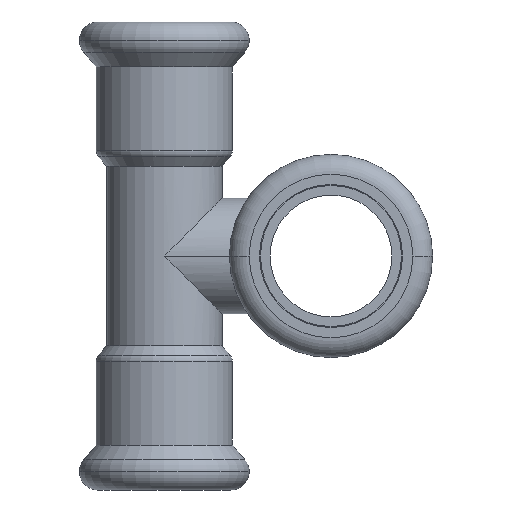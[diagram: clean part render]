
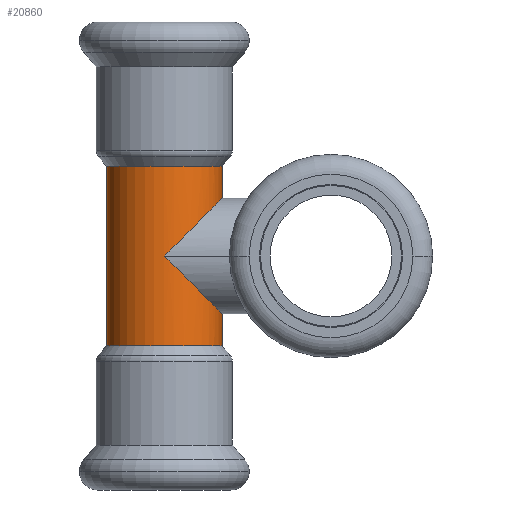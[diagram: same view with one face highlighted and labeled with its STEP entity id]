
A CAD part, front view. The second image highlights one B-rep face of the part: STEP entity #20860.
In plain terms, the highlighted cylindrical face has radius 9 mm (diameter 18 mm), a partial arc.
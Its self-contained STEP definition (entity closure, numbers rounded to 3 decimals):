
#1550=CARTESIAN_POINT('',(-193.976,42.621,0.));
#1560=VERTEX_POINT('',#1550);
#1740=CARTESIAN_POINT('',(-211.976,42.621,
0.));
#1750=VERTEX_POINT('',#1740);
#1780=CARTESIAN_POINT('',(-202.976,42.621,0.));
#1790=DIRECTION('',(0.,1.,0.));
#1800=DIRECTION('',(1.,0.,0.));
#1810=AXIS2_PLACEMENT_3D('',#1780,#1790,#1800);
#1820=CIRCLE('',#1810,9.);
#7260=CARTESIAN_POINT('',(-211.976,14.621,0.));
#7270=VERTEX_POINT('',#7260);
#7450=CARTESIAN_POINT('',(-193.976,14.621,
0.));
#7460=VERTEX_POINT('',#7450);
#7490=CARTESIAN_POINT('',(-202.976,14.621,0.));
#7500=DIRECTION('',(0.,-1.,0.));
#7510=DIRECTION('',(-1.,0.,0.));
#7520=AXIS2_PLACEMENT_3D('',#7490,#7500,#7510);
#7530=CIRCLE('',#7520,9.);
#12620=CARTESIAN_POINT('',(-202.976,14.621,0.));
#12630=DIRECTION('',(0.,-1.,0.));
#12640=DIRECTION('',(1.,0.,0.));
#12650=AXIS2_PLACEMENT_3D('',#12620,#12630,#12640);
#12660=CYLINDRICAL_SURFACE('',#12650,9.);
#12670=CARTESIAN_POINT('',(-193.976,14.621,0.));
#12680=DIRECTION('',(0.,-1.,0.));
#12690=VECTOR('',#12680,1.);
#12700=LINE('',#12670,#12690);
#12710=CARTESIAN_POINT('',(-193.976,19.621,0.));
#12720=VERTEX_POINT('',#12710);
#12730=EDGE_CURVE('',#12720,#7460,#12700,.T.);
#12750=CARTESIAN_POINT('',(-202.976,28.621,0.));
#12760=DIRECTION('',(-0.707,-0.707,0.));
#12770=DIRECTION('',(0.707,-0.707,0.));
#12780=AXIS2_PLACEMENT_3D('',#12750,#12760,#12770);
#12790=ELLIPSE('',#12780,12.728,9.);
#12840=CARTESIAN_POINT('',(-202.976,28.621,0.));
#12850=DIRECTION('',(0.707,-0.707,0.));
#12860=DIRECTION('',(-0.707,-0.707,0.));
#12870=AXIS2_PLACEMENT_3D('',#12840,#12850,#12860);
#12880=ELLIPSE('',#12870,12.728,9.);
#12890=CARTESIAN_POINT('',(-193.976,37.621,0.));
#12900=VERTEX_POINT('',#12890);
#12930=EDGE_CURVE('',#1560,#12900,#12700,.T.);
#12960=CARTESIAN_POINT('',(-211.976,14.621,
0.));
#12970=DIRECTION('',(0.,-1.,0.));
#12980=VECTOR('',#12970,1.);
#12990=LINE('',#12960,#12980);
#13000=EDGE_CURVE('',#1750,#7270,#12990,.T.);
#19480=CARTESIAN_POINT('',(-202.976,28.621,9.));
#19490=VERTEX_POINT('',#19480);
#19520=EDGE_CURVE('',#12900,#19490,#12880,.T.);
#20410=EDGE_CURVE('',#12720,#19490,#12790,.T.);
#20750=ORIENTED_EDGE('',*,*,#12730,.F.);
#20760=EDGE_CURVE('',#7460,#7270,#7530,.T.);
#20770=ORIENTED_EDGE('',*,*,#20760,.F.);
#20780=ORIENTED_EDGE('',*,*,#13000,.T.);
#20790=EDGE_CURVE('',#1750,#1560,#1820,.T.);
#20800=ORIENTED_EDGE('',*,*,#20790,.F.);
#20810=ORIENTED_EDGE('',*,*,#12930,.F.);
#20820=ORIENTED_EDGE('',*,*,#19520,.F.);
#20830=ORIENTED_EDGE('',*,*,#20410,.T.);
#20840=EDGE_LOOP('',(#20830,#20820,#20810,#20800,#20780,#20770,#20750));
#20850=FACE_OUTER_BOUND('',#20840,.T.);
#20860=ADVANCED_FACE('',(#20850),#12660,.T.);
